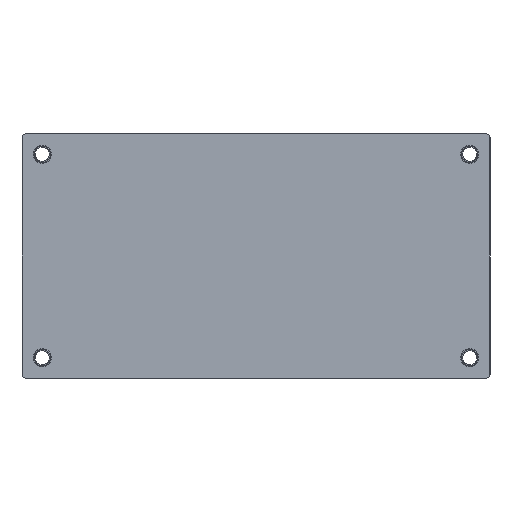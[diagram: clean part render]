
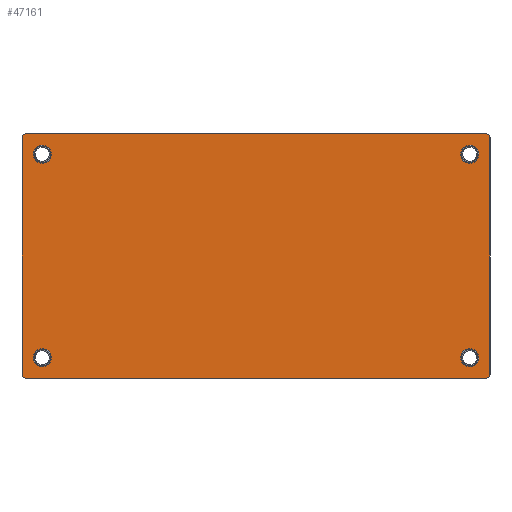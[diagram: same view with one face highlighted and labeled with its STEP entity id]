
A CAD part, front view. The second image highlights one B-rep face of the part: STEP entity #47161.
In plain terms, the highlighted planar face has unit normal (0, -1, 0) as drawn and (0, 0, -1) by its records, which use the part's own axes.
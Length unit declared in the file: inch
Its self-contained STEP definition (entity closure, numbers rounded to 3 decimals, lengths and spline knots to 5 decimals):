
#42 = VERTEX_POINT ( 'NONE', #14167 ) ;
#351 = CIRCLE ( 'NONE', #36149, 0.08858 ) ;
#659 = CARTESIAN_POINT ( 'NONE',  ( -2.18898, 1., -0.36614 ) ) ;
#1021 = DIRECTION ( 'NONE',  ( 0., 1., 0. ) ) ;
#1088 = VERTEX_POINT ( 'NONE', #40001 ) ;
#1205 = DIRECTION ( 'NONE',  ( 0., 0., 1. ) ) ;
#1262 = AXIS2_PLACEMENT_3D ( 'NONE', #55742, #19630, #1433 ) ;
#1367 = CIRCLE ( 'NONE', #27528, 0.08858 ) ;
#1433 = DIRECTION ( 'NONE',  ( -1., 0., 0. ) ) ;
#1445 = CARTESIAN_POINT ( 'NONE',  ( -2.29921, -1.16142, -0.36614 ) ) ;
#2466 = CARTESIAN_POINT ( 'NONE',  ( 2.10039, -1., -0.36614 ) ) ;
#2473 = CARTESIAN_POINT ( 'NONE',  ( -2.25984, -1.20079, -0.36614 ) ) ;
#2917 = CARTESIAN_POINT ( 'NONE',  ( -2.10039, -1., -0.36614 ) ) ;
#3058 = VERTEX_POINT ( 'NONE', #53243 ) ;
#4183 = FACE_BOUND ( 'NONE', #7788, .T. ) ;
#4293 = ORIENTED_EDGE ( 'NONE', *, *, #43059, .F. ) ;
#4424 = ORIENTED_EDGE ( 'NONE', *, *, #13241, .T. ) ;
#4483 = ORIENTED_EDGE ( 'NONE', *, *, #50534, .T. ) ;
#4792 = ORIENTED_EDGE ( 'NONE', *, *, #16707, .T. ) ;
#5116 = AXIS2_PLACEMENT_3D ( 'NONE', #35963, #22980, #41411 ) ;
#5914 = CARTESIAN_POINT ( 'NONE',  ( 2.10039, 1., -0.36614 ) ) ;
#6344 = VERTEX_POINT ( 'NONE', #39436 ) ;
#6397 = CIRCLE ( 'NONE', #23887, 0.08858 ) ;
#6425 = DIRECTION ( 'NONE',  ( 0., 0., 1. ) ) ;
#6878 = VERTEX_POINT ( 'NONE', #45749 ) ;
#7069 = CARTESIAN_POINT ( 'NONE',  ( 2.01181, -1., -0.36614 ) ) ;
#7788 = EDGE_LOOP ( 'NONE', ( #4792, #50078 ) ) ;
#8103 = FACE_OUTER_BOUND ( 'NONE', #28690, .T. ) ;
#8624 = CARTESIAN_POINT ( 'NONE',  ( -2.29921, 1.16142, -0.36614 ) ) ;
#9601 = ORIENTED_EDGE ( 'NONE', *, *, #9888, .T. ) ;
#9630 = DIRECTION ( 'NONE',  ( 1., 0., 0. ) ) ;
#9790 = VERTEX_POINT ( 'NONE', #44189 ) ;
#9888 = EDGE_CURVE ( 'NONE', #37044, #42, #47664, .T. ) ;
#10090 = CARTESIAN_POINT ( 'NONE',  ( -2.29921, 1.20079, -0.36614 ) ) ;
#11185 = CIRCLE ( 'NONE', #38307, 0.03937 ) ;
#11399 = EDGE_CURVE ( 'NONE', #32574, #55233, #351, .T. ) ;
#11686 = DIRECTION ( 'NONE',  ( 0., 0., 1. ) ) ;
#12959 = EDGE_CURVE ( 'NONE', #6878, #29768, #11185, .T. ) ;
#13241 = EDGE_CURVE ( 'NONE', #26280, #6344, #26761, .T. ) ;
#13409 = DIRECTION ( 'NONE',  ( 1., 0., 0. ) ) ;
#14167 = CARTESIAN_POINT ( 'NONE',  ( -2.01181, -1., -0.36614 ) ) ;
#15013 = EDGE_CURVE ( 'NONE', #48814, #42805, #24989, .T. ) ;
#15475 = DIRECTION ( 'NONE',  ( 1., 0., 0. ) ) ;
#15498 = CARTESIAN_POINT ( 'NONE',  ( -2.18898, -1., -0.36614 ) ) ;
#15884 = LINE ( 'NONE', #16177, #17270 ) ;
#16177 = CARTESIAN_POINT ( 'NONE',  ( 2.29921, -1.20079, -0.36614 ) ) ;
#16347 = AXIS2_PLACEMENT_3D ( 'NONE', #2917, #11686, #39860 ) ;
#16495 = AXIS2_PLACEMENT_3D ( 'NONE', #24971, #6425, #43400 ) ;
#16707 = EDGE_CURVE ( 'NONE', #37660, #9790, #6397, .T. ) ;
#17270 = VECTOR ( 'NONE', #48060, 39.37008 ) ;
#17511 = FACE_BOUND ( 'NONE', #50685, .T. ) ;
#18969 = DIRECTION ( 'NONE',  ( 1., 0., 0. ) ) ;
#19630 = DIRECTION ( 'NONE',  ( 0., 0., -1. ) ) ;
#20474 = DIRECTION ( 'NONE',  ( 1., 0., 0. ) ) ;
#22142 = CIRCLE ( 'NONE', #16347, 0.08858 ) ;
#22980 = DIRECTION ( 'NONE',  ( 0., 0., 1. ) ) ;
#23576 = CIRCLE ( 'NONE', #32204, 0.08858 ) ;
#23887 = AXIS2_PLACEMENT_3D ( 'NONE', #5914, #57476, #57781 ) ;
#23967 = EDGE_CURVE ( 'NONE', #56403, #54561, #31264, .T. ) ;
#24591 = EDGE_CURVE ( 'NONE', #6344, #26280, #1367, .T. ) ;
#24616 = DIRECTION ( 'NONE',  ( 0., 0., 1. ) ) ;
#24742 = DIRECTION ( 'NONE',  ( 0., 0., 1. ) ) ;
#24971 = CARTESIAN_POINT ( 'NONE',  ( 2.25984, 1.16142, -0.36614 ) ) ;
#24989 = LINE ( 'NONE', #34324, #37161 ) ;
#25085 = CARTESIAN_POINT ( 'NONE',  ( 2.18898, 1., -0.36614 ) ) ;
#25296 = DIRECTION ( 'NONE',  ( 0., -1., 0. ) ) ;
#26280 = VERTEX_POINT ( 'NONE', #659 ) ;
#26685 = FACE_BOUND ( 'NONE', #27033, .T. ) ;
#26761 = CIRCLE ( 'NONE', #36360, 0.08858 ) ;
#26966 = PLANE ( 'NONE',  #1262 ) ;
#27033 = EDGE_LOOP ( 'NONE', ( #44380, #9601 ) ) ;
#27528 = AXIS2_PLACEMENT_3D ( 'NONE', #28588, #46780, #33089 ) ;
#27587 = EDGE_CURVE ( 'NONE', #42, #37044, #22142, .T. ) ;
#28588 = CARTESIAN_POINT ( 'NONE',  ( -2.10039, 1., -0.36614 ) ) ;
#28690 = EDGE_LOOP ( 'NONE', ( #4483, #31461, #51508, #4293, #57330, #49055, #34848, #38427 ) ) ;
#28829 = CARTESIAN_POINT ( 'NONE',  ( -2.25984, 1.16142, -0.36614 ) ) ;
#28962 = CARTESIAN_POINT ( 'NONE',  ( 2.29921, 1.16142, -0.36614 ) ) ;
#29768 = VERTEX_POINT ( 'NONE', #8624 ) ;
#30308 = VECTOR ( 'NONE', #1021, 39.37008 ) ;
#30651 = VECTOR ( 'NONE', #53854, 39.37008 ) ;
#30786 = CARTESIAN_POINT ( 'NONE',  ( 2.29921, 1.20079, -0.36614 ) ) ;
#31264 = CIRCLE ( 'NONE', #5116, 0.03937 ) ;
#31461 = ORIENTED_EDGE ( 'NONE', *, *, #59758, .F. ) ;
#32204 = AXIS2_PLACEMENT_3D ( 'NONE', #2466, #24616, #15475 ) ;
#32574 = VERTEX_POINT ( 'NONE', #35974 ) ;
#32849 = LINE ( 'NONE', #10090, #30308 ) ;
#32886 = CIRCLE ( 'NONE', #48430, 0.08858 ) ;
#33055 = ORIENTED_EDGE ( 'NONE', *, *, #24591, .T. ) ;
#33089 = DIRECTION ( 'NONE',  ( 1., 0., 0. ) ) ;
#33780 = CARTESIAN_POINT ( 'NONE',  ( -2.10039, 1., -0.36614 ) ) ;
#34324 = CARTESIAN_POINT ( 'NONE',  ( 2.29921, 1.20079, -0.36614 ) ) ;
#34848 = ORIENTED_EDGE ( 'NONE', *, *, #40139, .T. ) ;
#35963 = CARTESIAN_POINT ( 'NONE',  ( -2.25984, -1.16142, -0.36614 ) ) ;
#35974 = CARTESIAN_POINT ( 'NONE',  ( 2.18898, -1., -0.36614 ) ) ;
#36149 = AXIS2_PLACEMENT_3D ( 'NONE', #37495, #47573, #9630 ) ;
#36360 = AXIS2_PLACEMENT_3D ( 'NONE', #33780, #24742, #20474 ) ;
#36657 = AXIS2_PLACEMENT_3D ( 'NONE', #57701, #42284, #18969 ) ;
#36698 = EDGE_CURVE ( 'NONE', #3058, #54561, #15884, .T. ) ;
#37044 = VERTEX_POINT ( 'NONE', #15498 ) ;
#37161 = VECTOR ( 'NONE', #25296, 39.37008 ) ;
#37495 = CARTESIAN_POINT ( 'NONE',  ( 2.10039, -1., -0.36614 ) ) ;
#37660 = VERTEX_POINT ( 'NONE', #25085 ) ;
#38307 = AXIS2_PLACEMENT_3D ( 'NONE', #28829, #1205, #38441 ) ;
#38427 = ORIENTED_EDGE ( 'NONE', *, *, #12959, .F. ) ;
#38441 = DIRECTION ( 'NONE',  ( 1., 0., 0. ) ) ;
#39436 = CARTESIAN_POINT ( 'NONE',  ( -2.01181, 1., -0.36614 ) ) ;
#39860 = DIRECTION ( 'NONE',  ( 1., 0., 0. ) ) ;
#40001 = CARTESIAN_POINT ( 'NONE',  ( 2.25984, 1.20079, -0.36614 ) ) ;
#40139 = EDGE_CURVE ( 'NONE', #56403, #29768, #32849, .T. ) ;
#40386 = EDGE_CURVE ( 'NONE', #55233, #32574, #23576, .T. ) ;
#41294 = CARTESIAN_POINT ( 'NONE',  ( 2.10039, 1., -0.36614 ) ) ;
#41411 = DIRECTION ( 'NONE',  ( 1., 0., 0. ) ) ;
#41536 = CIRCLE ( 'NONE', #36657, 0.03937 ) ;
#42284 = DIRECTION ( 'NONE',  ( 0., 0., 1. ) ) ;
#42805 = VERTEX_POINT ( 'NONE', #47852 ) ;
#43059 = EDGE_CURVE ( 'NONE', #3058, #42805, #41536, .T. ) ;
#43400 = DIRECTION ( 'NONE',  ( 1., 0., 0. ) ) ;
#44189 = CARTESIAN_POINT ( 'NONE',  ( 2.01181, 1., -0.36614 ) ) ;
#44380 = ORIENTED_EDGE ( 'NONE', *, *, #27587, .T. ) ;
#44559 = ORIENTED_EDGE ( 'NONE', *, *, #11399, .T. ) ;
#45749 = CARTESIAN_POINT ( 'NONE',  ( -2.25984, 1.20079, -0.36614 ) ) ;
#46670 = AXIS2_PLACEMENT_3D ( 'NONE', #58742, #54184, #49631 ) ;
#46780 = DIRECTION ( 'NONE',  ( 0., 0., 1. ) ) ;
#47161 = ADVANCED_FACE ( 'NONE', ( #8103, #26685, #17511, #49989, #4183 ), #26966, .T. ) ;
#47573 = DIRECTION ( 'NONE',  ( 0., 0., 1. ) ) ;
#47664 = CIRCLE ( 'NONE', #46670, 0.08858 ) ;
#47852 = CARTESIAN_POINT ( 'NONE',  ( 2.29921, -1.16142, -0.36614 ) ) ;
#48060 = DIRECTION ( 'NONE',  ( -1., 0., 0. ) ) ;
#48430 = AXIS2_PLACEMENT_3D ( 'NONE', #41294, #49849, #13409 ) ;
#48814 = VERTEX_POINT ( 'NONE', #28962 ) ;
#49055 = ORIENTED_EDGE ( 'NONE', *, *, #23967, .F. ) ;
#49397 = EDGE_LOOP ( 'NONE', ( #33055, #4424 ) ) ;
#49631 = DIRECTION ( 'NONE',  ( 1., 0., 0. ) ) ;
#49849 = DIRECTION ( 'NONE',  ( 0., 0., 1. ) ) ;
#49989 = FACE_BOUND ( 'NONE', #49397, .T. ) ;
#50078 = ORIENTED_EDGE ( 'NONE', *, *, #59590, .T. ) ;
#50534 = EDGE_CURVE ( 'NONE', #6878, #1088, #58405, .T. ) ;
#50685 = EDGE_LOOP ( 'NONE', ( #44559, #58164 ) ) ;
#51508 = ORIENTED_EDGE ( 'NONE', *, *, #15013, .T. ) ;
#53243 = CARTESIAN_POINT ( 'NONE',  ( 2.25984, -1.20079, -0.36614 ) ) ;
#53854 = DIRECTION ( 'NONE',  ( 1., 0., 0. ) ) ;
#54184 = DIRECTION ( 'NONE',  ( 0., 0., 1. ) ) ;
#54561 = VERTEX_POINT ( 'NONE', #2473 ) ;
#55233 = VERTEX_POINT ( 'NONE', #7069 ) ;
#55742 = CARTESIAN_POINT ( 'NONE',  ( 2.29921, -1.20079, -0.36614 ) ) ;
#56403 = VERTEX_POINT ( 'NONE', #1445 ) ;
#57330 = ORIENTED_EDGE ( 'NONE', *, *, #36698, .T. ) ;
#57476 = DIRECTION ( 'NONE',  ( 0., 0., 1. ) ) ;
#57701 = CARTESIAN_POINT ( 'NONE',  ( 2.25984, -1.16142, -0.36614 ) ) ;
#57781 = DIRECTION ( 'NONE',  ( 1., 0., 0. ) ) ;
#58164 = ORIENTED_EDGE ( 'NONE', *, *, #40386, .T. ) ;
#58405 = LINE ( 'NONE', #30786, #30651 ) ;
#58742 = CARTESIAN_POINT ( 'NONE',  ( -2.10039, -1., -0.36614 ) ) ;
#59103 = CIRCLE ( 'NONE', #16495, 0.03937 ) ;
#59590 = EDGE_CURVE ( 'NONE', #9790, #37660, #32886, .T. ) ;
#59758 = EDGE_CURVE ( 'NONE', #48814, #1088, #59103, .T. ) ;
